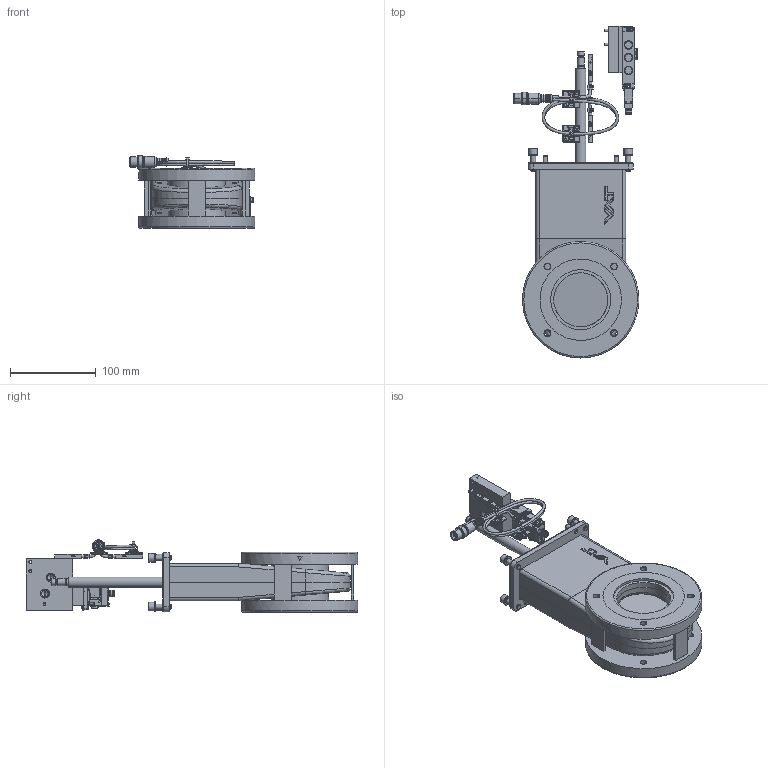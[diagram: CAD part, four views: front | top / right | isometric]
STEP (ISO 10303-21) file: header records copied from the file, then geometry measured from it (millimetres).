
FILE_DESCRIPTION(/* description */ (''),/* implementation_level */ '2;1');
FILE_NAME(/* name */ '1333722960_203.stp',/* time_stamp */ '2021-06-21T09:11:11+02:00',/* author */ (''),/* organization */ (''),/* preprocessor_version */ 'ST-DEVELOPER v16.7',/* originating_system */ 'SIEMENS PLM Software NX 1915',/* authorisation */ '');
FILE_SCHEMA (('AP203_CONFIGURATION_CONTROLLED_3D_DESIGN_OF_MECHANICAL_PARTS_AND_ASSEMBLIES_MIM_LF { 1 0 10303 403 2 1 2}'));
Length unit declared in the file: millimetre
Products named in the file (26): 359586.6_32899ID; 255554.2_32430ID; 359586.6_32420ID; 408099; 990068; 487660; 411636_32933ID; 957161; 343001.1; 1082168; 938048; 1041281; 251262.4; 255557.2; 255556.2_113692ID; 255556.2; 984070; 1085547; 255550.3; n-6134-408; 218189; 1081830_NX-ARRAGMNTDN050/63, Standard v3 ; 1004802_NX-ARRAGMNTopen; 359599.5_NX-ARRAGMNTZusammenstellung_STANDARD; 359604.6; 1033267
Assembly tree (40 placements, depth 4):
  1033267
    218189  x4
    n-6134-408  x4
    255550.3
    359604.6
      255556.2
      255556.2_113692ID
      359599.5_NX-ARRAGMNTZusammenstellung_STANDARD
        359586.6_32420ID
        255554.2_32430ID
        359586.6_32899ID
      255557.2  x2
      251262.4  x3
    1004802_NX-ARRAGMNTopen
      1041281
      938048
      1082168
      343001.1  x2
      957161  x2
    1081830_NX-ARRAGMNTDN050/63, Standard v3 
      411636_32933ID
      487660  x2
      990068
      408099  x2
    1085547  x2
    984070  x2
Bounding box: 146.8 x 387.5 x 84.4 mm (x, y, z)
Volume: 679337.3 mm3; surface area: 386040.6 mm2
Topology: 54 solids, 56 shells, 6636 faces, 16951 edges, 10521 vertices
Faces by surface type: plane 2471, cylinder 1809, bspline 895, extrusion 475, torus 420, cone 333, sphere 221, revolution 12
Full cylindrical faces by diameter (mm): 2.46 x2, 2.5 x2, 2.9 x2, 3 x4, 3.5 x1, 4 x2, 4.96 x4, 5 x13, 5.2 x2, 5.22 x4, 5.5 x2, 6 x9, 6.4 x5, 6.5 x5, 7.2 x8, 8 x3, 8.56 x3, 10 x4, 11 x5, 12 x1, 25.345 x1, 63.1 x4, 63.35 x6, 67.1 x2, 67.6 x2, 70.1 x2, 135.8 x2
Entity records: 264626 total; most frequent: CARTESIAN_POINT 90895, ORIENTED_EDGE 30810, DIRECTION 25565, EDGE_CURVE 15405, VERTEX_POINT 9712, AXIS2_PLACEMENT_3D 9029, VECTOR 7501, LINE 7026
